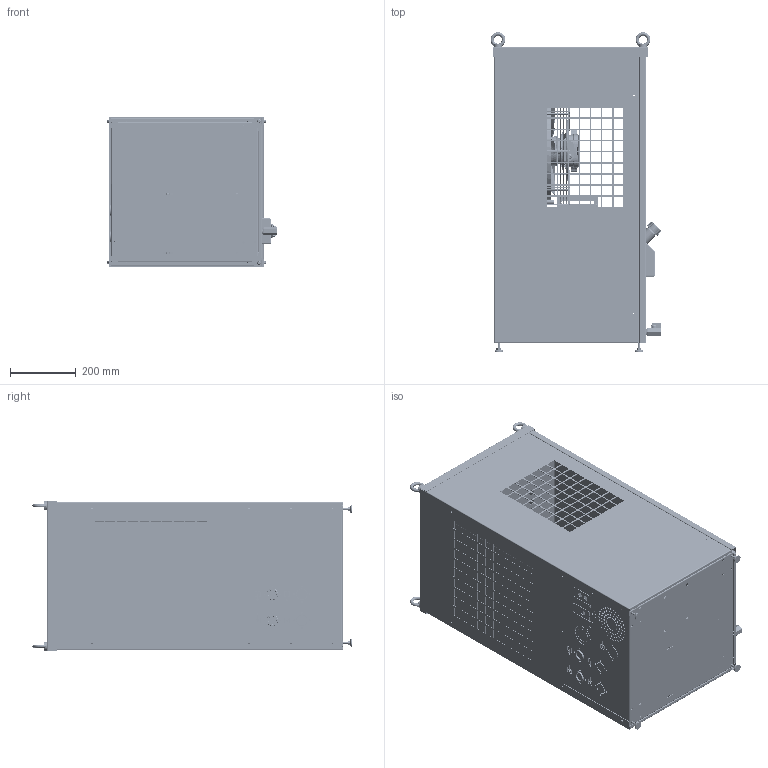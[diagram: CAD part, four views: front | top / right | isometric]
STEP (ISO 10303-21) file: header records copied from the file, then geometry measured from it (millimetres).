
FILE_DESCRIPTION (( 'STEP AP203' ), '1' );
FILE_NAME ('COPIA_ECP1-D_REV_00.STEP', '2026-07-23T09:33:59', ( '' ), ( '' ), 'SwSTEP 2.0', 'SolidWorks 2023', '' );
FILE_SCHEMA (( 'CONFIG_CONTROL_DESIGN' ));
Length unit declared in the file: millimetre
Products named in the file (95): COPIA_CO-CF-00148-EURC341_REV.0_25.07.202524; COPIA_CO-CF-00148-EURC341_REV.0_25.07.20256; COPIA_CR-1C-00040_000; COPIA_CO-CF-00148-EURC341_REV.0_25.07.202526; COPIA_CR-1C-00041_000; COPIA_CO-CF-00148-EURC341_REV.0_25.07.20254; COPIA_CO-CF-00148-EURC341_REV.0_25.07.20259; COPIA_VR-1C-00018_003; COPIA_CO-CF-00148-EURC341_REV.0_25.07.202538; COPIA_CO-CF-00148-EURC341_REV.0_25.07.202552; COPIA_CO-CF-00148-EURC341_REV.0_25.07.202531; COPIA_CO-CF-00148_001_NON ACCORCIATO; COPIA_CO-CF-00148-EURC341_REV.0_25.07.202510; COPIA_CO-CF-00148-EURC341_REV.0_25.07.202532; COPIA_CO-CF-00148-EURC341_REV.0_25.07.202559; COPIA_VR-1C-00036_001; COPIA_CO-CF-00148-EURC341_REV.0_25.07.2025 (2); COPIA_TE-EL-00007 - EW_971_230V; COPIA_CO-CF-00148-EURC341_REV.0_25.07.202550; COPIA_CO-CF-00148-EURC341_REV.0_25.07.202545; COPIA_CO-CF-00148-EURC341_REV.0_25.07.202521; COPIA_VR-1C-00014_002; COPIA_CO-CF-00148-EURC341_REV.0_25.07.202547; COPIA_pacco cond-43-MI-E0002-3; COPIA_ZP-TA-00006; COPIA_CO-CF-00148-EURC341_REV.0_25.07.202522; COPIA_SE-RP-00042_001; COPIA_CO-CF-00148-EURC341_REV.0_25.07.202555; COPIA_CO-CF-00148-EURC341_REV.0_25.07.202541; COPIA_CO-CF-00148-EURC341_REV.0_25.07.202518; COPIA_CO-CF-00148-EURC341_REV.0_25.07.20255; COPIA_BOZZA QUADRO COMANDI LP25; COPIA_CO-CF-00148-EURC341_REV.0_25.07.20252; COPIA_CO-CF-00148-EURC341_REV.0_25.07.202560; COPIA_CO-CF-00148-EURC341_REV.0_25.07.202554; COPIA_CO-CF-00148-EURC341_REV.0_25.07.202562; COPIA_FILETTO_RUBINETTO_VA-A5-00001; COPIA_CO-CF-00148-EURC341_REV.0_25.07.20251; COPIA_CO-CF-00148-EURC341_REV.0_25.07.202534; COPIA_AN-PI-00023_000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
Assembly tree (165 placements, depth 5):
  COPIA_ECP1-D_REV_00
    COPIA_43-MI-E0002_43-MI-E0003 LP25 NO EVAP
      COPIA_50-1C-00023_senza piastrina
        COPIA_VR-1C-00059_002
        COPIA_CR-1C-00041_000
        COPIA_CR-1C-00040_000
        COPIA_CR-1C-00042_001
        COPIA_VR-1C-00017_003
        COPIA_VR-1C-00018_003
        COPIA_CR-1C-00033_000
        COPIA_VR-1C-00036_001
        COPIA_VR-1C-00014_002
        COPIA_VR-1C-00015_002
        COPIA_TA-RG-00041
        COPIA_CR-1C-00027_010
      COPIA_CO-CF-00148-EURC341_REV.0_25.07.2025
        COPIA_CO-CF-00148-EURC341_REV.0_25.07.2025 (2)
          COPIA_CO-CF-00148-EURC341_REV.0_25.07.20251
          COPIA_CO-CF-00148-EURC341_REV.0_25.07.20252
          COPIA_CO-CF-00148-EURC341_REV.0_25.07.20253
          COPIA_CO-CF-00148-EURC341_REV.0_25.07.20254
          COPIA_CO-CF-00148-EURC341_REV.0_25.07.20255
          COPIA_CO-CF-00148-EURC341_REV.0_25.07.20256
          COPIA_CO-CF-00148-EURC341_REV.0_25.07.20257
          COPIA_CO-CF-00148-EURC341_REV.0_25.07.20258
          COPIA_CO-CF-00148-EURC341_REV.0_25.07.20259
          COPIA_CO-CF-00148-EURC341_REV.0_25.07.202510
          COPIA_CO-CF-00148-EURC341_REV.0_25.07.202512
          COPIA_CO-CF-00148-EURC341_REV.0_25.07.202514
          COPIA_CO-CF-00148-EURC341_REV.0_25.07.202515
          COPIA_CO-CF-00148-EURC341_REV.0_25.07.202516
          COPIA_CO-CF-00148-EURC341_REV.0_25.07.202517
          COPIA_CO-CF-00148-EURC341_REV.0_25.07.202518
          COPIA_CO-CF-00148-EURC341_REV.0_25.07.202519
          COPIA_CO-CF-00148-EURC341_REV.0_25.07.202520
          COPIA_CO-CF-00148-EURC341_REV.0_25.07.202521
          COPIA_CO-CF-00148-EURC341_REV.0_25.07.202522
          COPIA_CO-CF-00148-EURC341_REV.0_25.07.202523
          COPIA_CO-CF-00148-EURC341_REV.0_25.07.202524
          COPIA_CO-CF-00148-EURC341_REV.0_25.07.202525
          COPIA_CO-CF-00148-EURC341_REV.0_25.07.202526
          COPIA_CO-CF-00148-EURC341_REV.0_25.07.202527
          COPIA_CO-CF-00148-EURC341_REV.0_25.07.202528
          COPIA_CO-CF-00148-EURC341_REV.0_25.07.202529
          COPIA_CO-CF-00148-EURC341_REV.0_25.07.202530
          COPIA_CO-CF-00148-EURC341_REV.0_25.07.202531
          COPIA_CO-CF-00148-EURC341_REV.0_25.07.202532
          COPIA_CO-CF-00148-EURC341_REV.0_25.07.202533
          COPIA_CO-CF-00148-EURC341_REV.0_25.07.202534
          COPIA_CO-CF-00148-EURC341_REV.0_25.07.202535
          COPIA_CO-CF-00148-EURC341_REV.0_25.07.202537
          COPIA_CO-CF-00148-EURC341_REV.0_25.07.202538
          COPIA_CO-CF-00148-EURC341_REV.0_25.07.202539
          COPIA_CO-CF-00148-EURC341_REV.0_25.07.202540
          COPIA_CO-CF-00148-EURC341_REV.0_25.07.202541
          COPIA_CO-CF-00148-EURC341_REV.0_25.07.202542
          COPIA_CO-CF-00148-EURC341_REV.0_25.07.202543
          COPIA_CO-CF-00148-EURC341_REV.0_25.07.202544
          COPIA_CO-CF-00148-EURC341_REV.0_25.07.202545
          COPIA_CO-CF-00148-EURC341_REV.0_25.07.202546
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Bounding box: 521.9 x 974.5 x 460 mm (x, y, z)
Volume: 23216256.9 mm3; surface area: 10270966.7 mm2
Topology: 164 solids, 290 shells, 7987 faces, 21090 edges, 13560 vertices
Faces by surface type: plane 4110, cylinder 2454, bspline 694, torus 430, cone 264, sphere 35
Entity records: 379297 total; most frequent: CARTESIAN_POINT 190371, ORIENTED_EDGE 38194, DIRECTION 32920, EDGE_CURVE 19256, VERTEX_POINT 12456, LINE 11824, VECTOR 11824, AXIS2_PLACEMENT_3D 10548
